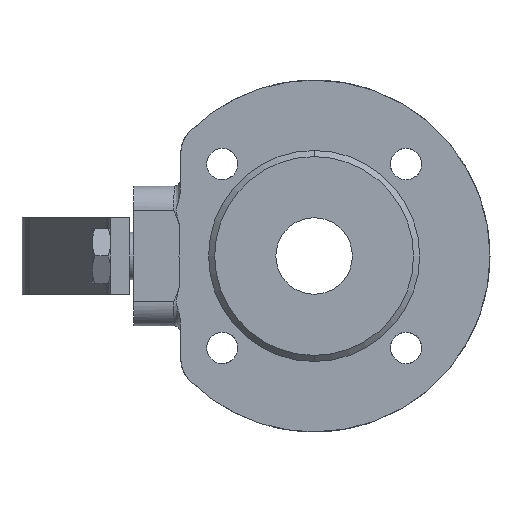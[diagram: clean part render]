
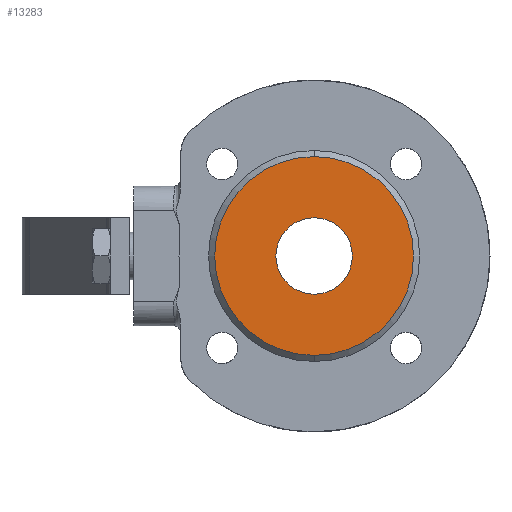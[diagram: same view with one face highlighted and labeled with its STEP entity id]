
A CAD part, left-side view. The second image highlights one B-rep face of the part: STEP entity #13283.
In plain terms, the highlighted planar face has unit normal (-1, 0, 0).
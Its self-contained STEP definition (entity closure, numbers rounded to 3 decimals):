
#1888 = VERTEX_POINT ( 'NONE', #4957 ) ;
#1890 = EDGE_CURVE ( 'NONE', #1888, #1891, #4956, .T. ) ;
#1891 = VERTEX_POINT ( 'NONE', #5006 ) ;
#1945 = EDGE_CURVE ( 'NONE', #1973, #2036, #5220, .T. ) ;
#1973 = VERTEX_POINT ( 'NONE', #5246 ) ;
#2036 = VERTEX_POINT ( 'NONE', #7270 ) ;
#4955 = AXIS2_PLACEMENT_3D ( 'NONE', #5009, #5008, #5007 ) ;
#4956 = CIRCLE ( 'NONE', #4955, 12.5 ) ;
#4957 = CARTESIAN_POINT ( 'NONE',  ( -25., 0., -12.5 ) ) ;
#5006 = CARTESIAN_POINT ( 'NONE',  ( -25., 0., 12.5 ) ) ;
#5007 = DIRECTION ( 'NONE',  ( 0., 0., 1. ) ) ;
#5008 = DIRECTION ( 'NONE',  ( -1., 0., 0. ) ) ;
#5009 = CARTESIAN_POINT ( 'NONE',  ( -25., 0., 0. ) ) ;
#5155 = CARTESIAN_POINT ( 'NONE',  ( -25., 0., 0. ) ) ;
#5217 = DIRECTION ( 'NONE',  ( 0., 0., 1. ) ) ;
#5218 = DIRECTION ( 'NONE',  ( -1., 0., 0. ) ) ;
#5219 = AXIS2_PLACEMENT_3D ( 'NONE', #5155, #5218, #5217 ) ;
#5220 = CIRCLE ( 'NONE', #5219, 32.5 ) ;
#5246 = CARTESIAN_POINT ( 'NONE',  ( -25., 0., 32.5 ) ) ;
#7270 = CARTESIAN_POINT ( 'NONE',  ( -25., 0., -32.5 ) ) ;
#9805 = CIRCLE ( 'NONE', #9834, 32.5 ) ;
#9823 = DIRECTION ( 'NONE',  ( 0., 0., 1. ) ) ;
#9824 = DIRECTION ( 'NONE',  ( -1., 0., 0. ) ) ;
#9833 = CARTESIAN_POINT ( 'NONE',  ( -25., 0., 0. ) ) ;
#9834 = AXIS2_PLACEMENT_3D ( 'NONE', #9833, #9824, #9823 ) ;
#13268 = EDGE_LOOP ( 'NONE', ( #13269, #13270 ) ) ;
#13269 = ORIENTED_EDGE ( 'NONE', *, *, #13329, .T. ) ;
#13270 = ORIENTED_EDGE ( 'NONE', *, *, #1945, .T. ) ;
#13283 = ADVANCED_FACE ( 'NONE', ( #16288, #16341 ), #16340, .F. ) ;
#13284 = EDGE_LOOP ( 'NONE', ( #13285, #13335 ) ) ;
#13285 = ORIENTED_EDGE ( 'NONE', *, *, #13286, .F. ) ;
#13286 = EDGE_CURVE ( 'NONE', #1891, #1888, #16339, .T. ) ;
#13329 = EDGE_CURVE ( 'NONE', #2036, #1973, #9805, .T. ) ;
#13335 = ORIENTED_EDGE ( 'NONE', *, *, #1890, .F. ) ;
#16288 = FACE_BOUND ( 'NONE', #13284, .T. ) ;
#16331 = DIRECTION ( 'NONE',  ( 0., 0., 1. ) ) ;
#16332 = DIRECTION ( 'NONE',  ( -1., 0., 0. ) ) ;
#16333 = CARTESIAN_POINT ( 'NONE',  ( -25., 0., 0. ) ) ;
#16334 = AXIS2_PLACEMENT_3D ( 'NONE', #16333, #16332, #16331 ) ;
#16335 = DIRECTION ( 'NONE',  ( 0., 0., -1. ) ) ;
#16336 = DIRECTION ( 'NONE',  ( 1., 0., 0. ) ) ;
#16337 = CARTESIAN_POINT ( 'NONE',  ( -25., 32.5, 0. ) ) ;
#16338 = AXIS2_PLACEMENT_3D ( 'NONE', #16337, #16336, #16335 ) ;
#16339 = CIRCLE ( 'NONE', #16334, 12.5 ) ;
#16340 = PLANE ( 'NONE',  #16338 ) ;
#16341 = FACE_OUTER_BOUND ( 'NONE', #13268, .T. ) ;
